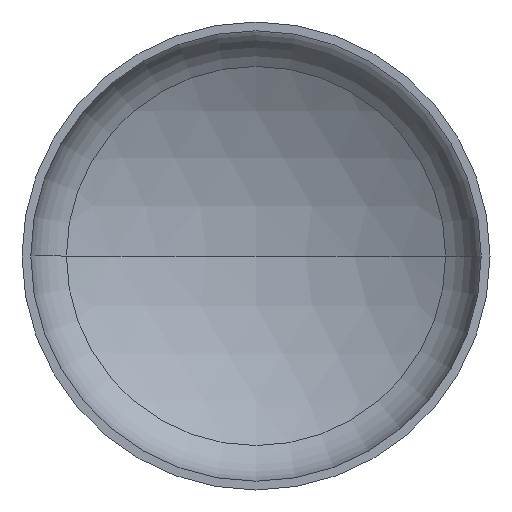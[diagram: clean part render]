
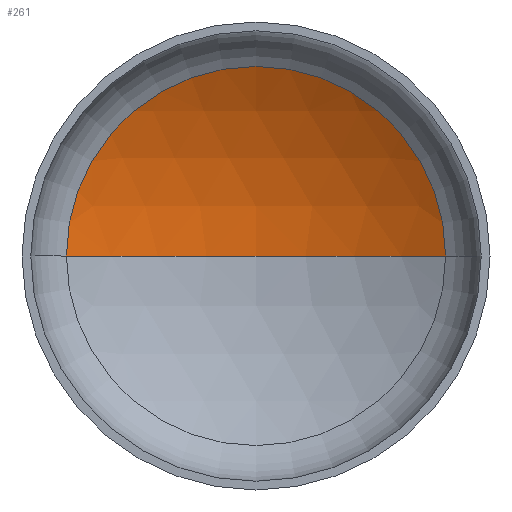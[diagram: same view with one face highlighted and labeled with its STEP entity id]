
A CAD part, front view. The second image highlights one B-rep face of the part: STEP entity #261.
In plain terms, the highlighted spherical face has radius 1920 mm.
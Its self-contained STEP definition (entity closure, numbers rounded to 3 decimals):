
#17 = AXIS2_PLACEMENT_3D ( 'NONE', #136, #285, #98 ) ;
#18 = AXIS2_PLACEMENT_3D ( 'NONE', #264, #217, #391 ) ;
#35 = AXIS2_PLACEMENT_3D ( 'NONE', #176, #342, #372 ) ;
#38 = CIRCLE ( 'NONE', #17, 1920. ) ;
#57 = DIRECTION ( 'NONE',  ( 1., 0., 0. ) ) ;
#63 = VERTEX_POINT ( 'NONE', #237 ) ;
#93 = ORIENTED_EDGE ( 'NONE', *, *, #339, .T. ) ;
#98 = DIRECTION ( 'NONE',  ( -1., 0., 0. ) ) ;
#106 = CARTESIAN_POINT ( 'NONE',  ( 0., 723.484, 0. ) ) ;
#124 = ORIENTED_EDGE ( 'NONE', *, *, #348, .T. ) ;
#130 = CIRCLE ( 'NONE', #343, 1920. ) ;
#136 = CARTESIAN_POINT ( 'NONE',  ( 0., -1196.516, 0. ) ) ;
#154 = CARTESIAN_POINT ( 'NONE',  ( 0., -1196.516, 0. ) ) ;
#163 = EDGE_LOOP ( 'NONE', ( #210, #124, #93 ) ) ;
#167 = CIRCLE ( 'NONE', #18, 972.387 ) ;
#176 = CARTESIAN_POINT ( 'NONE',  ( 0., -1196.516, 0. ) ) ;
#182 = VERTEX_POINT ( 'NONE', #106 ) ;
#210 = ORIENTED_EDGE ( 'NONE', *, *, #384, .F. ) ;
#217 = DIRECTION ( 'NONE',  ( 0., -1., 0. ) ) ;
#237 = CARTESIAN_POINT ( 'NONE',  ( -972.387, 459.039, 0. ) ) ;
#259 = SPHERICAL_SURFACE ( 'NONE', #35, 1920. ) ;
#261 = ADVANCED_FACE ( 'NONE', ( #392 ), #259, .F. ) ;
#264 = CARTESIAN_POINT ( 'NONE',  ( 0., 459.039, 0. ) ) ;
#267 = DIRECTION ( 'NONE',  ( 0., 0., 1. ) ) ;
#285 = DIRECTION ( 'NONE',  ( 0., 0., -1. ) ) ;
#339 = EDGE_CURVE ( 'NONE', #377, #63, #167, .T. ) ;
#342 = DIRECTION ( 'NONE',  ( 0., 0., -1. ) ) ;
#343 = AXIS2_PLACEMENT_3D ( 'NONE', #154, #267, #57 ) ;
#348 = EDGE_CURVE ( 'NONE', #182, #377, #38, .T. ) ;
#349 = CARTESIAN_POINT ( 'NONE',  ( 972.387, 459.039, 0. ) ) ;
#372 = DIRECTION ( 'NONE',  ( -1., 0., 0. ) ) ;
#377 = VERTEX_POINT ( 'NONE', #349 ) ;
#384 = EDGE_CURVE ( 'NONE', #182, #63, #130, .T. ) ;
#391 = DIRECTION ( 'NONE',  ( 1., 0., 0. ) ) ;
#392 = FACE_OUTER_BOUND ( 'NONE', #163, .T. ) ;
